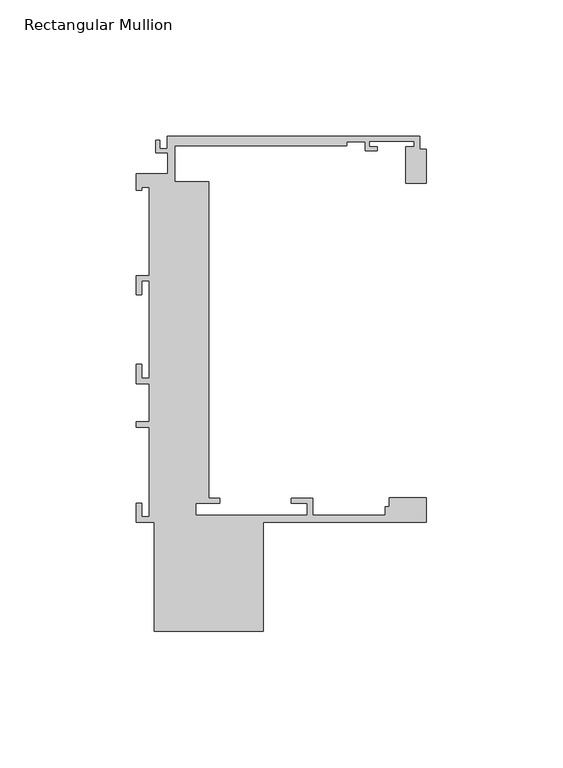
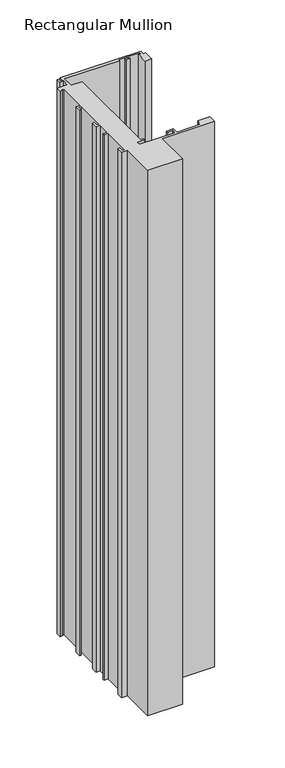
"""IFC4 building model written with IfcOpenShell, lengths in millimetres: member geometry, Rectangular Mullion : Danpal_K12_Middle-Mullion_B1."""

from ifc_helpers import new_model, si_unit, frame, origin, place, context, project, spatial, polyline, outline, extrude, source, transform, mapped, element, save


def rectangular_mullion_d2092e84(model_context):
    return source(origin(), model_context, "Body", "SweptSolid", [
        extrude(outline(polyline([(-24.173135, -117.8676658), (-20.1940961, -117.8676658), (-20.1940961, -119.8676658), (-28.9590961, -119.8676658), (-28.9590961, -124.2676658), (11.9409313, -124.2676658), (11.9409313, -119.8676658), (5.9409313, -119.8676658), (5.9409313, -117.8676658), (13.9409313, -117.8676658), (13.9409313, -124.2676658), (40.4959313, -124.2676658), (40.4959313, -121.0676175), (42.0287205, -121.0676175), (42.0287205, -117.6986749), (55.6176464, -117.6986749), (55.6176464, -126.7676657), (-4.1940962, -126.7676657), (-4.1940962, -166.7676657), (-44.1940962, -166.7676657), (-44.1940962, -126.7676657), (-50.7940962, -126.7676657), (-50.7940962, -119.7676657), (-48.7940962, -119.7676657), (-48.7940962, -124.7676657), (-45.9940962, -124.7676657), (-45.9940962, -91.8676485), (-50.7940962, -91.8676485), (-50.7940962, -89.8676485), (-45.9940962, -89.8676485), (-45.9940962, -75.867683), (-50.7940962, -75.867683), (-50.7940962, -68.8676657), (-48.7940962, -68.8676657), (-48.7940962, -73.8676657), (-45.9940962, -73.8676657), (-45.9940962, -38.2443486), (-48.7940962, -38.2443486), (-48.7940962, -43.2443486), (-50.7940962, -43.2443486), (-50.7940962, -36.2443486), (-45.9940962, -36.2443486), (-45.9940962, -3.9448486), (-48.7940962, -3.9448486), (-48.7940962, -4.9448486), (-50.7940962, -4.9448486), (-50.7940962, 1.0551514), (-39.1885087, 1.0551514), (-39.1885087, 8.8006425), (-43.6422367, 8.8006425), (-43.6422367, 13.3051514), (-42.1422367, 13.3051514), (-42.1422367, 10.3006425), (-39.3921425, 10.3006425), (-39.3921425, 14.8051514), (53.1059014, 14.8051514), (53.1059014, 10.065304), (55.6176464, 10.065304), (55.6176464, -2.316674), (48.1059014, -2.316674), (48.1059014, 11.0051513), (51.1059014, 11.0051513), (51.1059014, 13.0051512), (34.6059015, 13.0051512), (34.6059015, 11.0051513), (37.6059015, 11.0051513), (37.6059015, 9.5051512), (33.1059015, 9.5051512), (33.1059015, 12.8051513), (26.3590216, 12.8051513), (26.3590216, 11.3051512), (-36.6885087, 11.3051512), (-36.6885087, -1.9446289), (-24.173135, -1.9446289), (-24.173135, -117.8676658)])), frame((0.0, 0.0, -660.6176464), z_axis=(0.0, 0.0, 1.0), x_axis=(1.0, 0.0, 0.0)), (0.0, 0.0, 1.0), 660.6176464),
    ])


if __name__ == "__main__":
    model = new_model("IFC4")
    model_context = context("Model", 3, world=origin())
    ifc_project = project(units=[si_unit("LENGTHUNIT", "METRE", prefix="MILLI")], contexts=[model_context])
    site = spatial("IfcSite", under=ifc_project)
    building = spatial("IfcBuilding", under=site)
    placement = place(None, origin())
    rectangular_mullion_shape = rectangular_mullion_d2092e84(model_context)
    element("IfcMember", 1, ObjectType="Rectangular Mullion : Danpal_K12_Middle-Mullion_B1", at=placement, inside=building, context=model_context, shape_type="MappedRepresentation", body=[
        mapped(rectangular_mullion_shape, transform((0.0, 0.0, 0.0), x_axis=(1.0, 0.0, 0.0), y_axis=(0.0, 1.0, 0.0), z_axis=(0.0, 0.0, 1.0))),
    ])
    save(model, "model.ifc")
